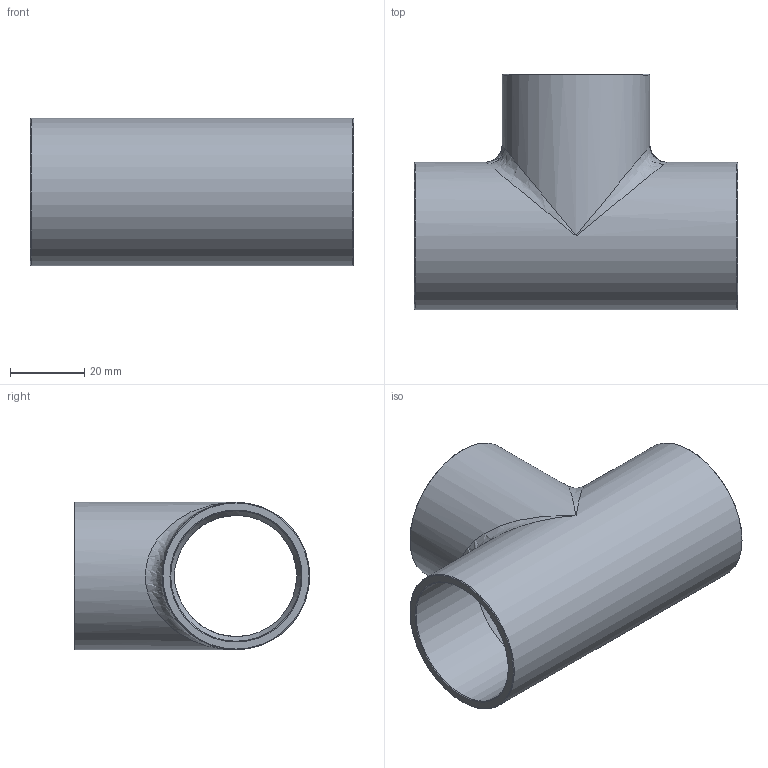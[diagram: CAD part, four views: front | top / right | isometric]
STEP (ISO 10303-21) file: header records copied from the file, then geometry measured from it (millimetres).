
FILE_DESCRIPTION((''),'2;1');
FILE_NAME('G:\SANHA-Ternat\Technik\Management\Bouwmaten + markeringen\z-maattekeningen 3D\29000s\29130138_3d.stp','2017-07-26T15:59:49',('vdvijverd'),(''),'Autodesk Inventor 2009','Autodesk Inventor 2009','');
FILE_SCHEMA(('AUTOMOTIVE_DESIGN { 1 0 10303 214 1 1 1 1 }'));
Length unit declared in the file: millimetre
Products named in the file (1): 29130138_3d
Bounding box: 87 x 63.35 x 39.7 mm (x, y, z)
Volume: 33760.5 mm3; surface area: 25618.1 mm2
Topology: 1 solids, 1 shells, 24 faces, 66 edges, 35 vertices
Faces by surface type: cone 8, cylinder 7, bspline 6, plane 3
Full cylindrical faces by diameter (mm): 35.105 x2, 39.7 x2
Entity records: 1542 total; most frequent: CARTESIAN_POINT 1049, DIRECTION 104, ORIENTED_EDGE 74, AXIS2_PLACEMENT_3D 52, EDGE_LOOP 42, EDGE_CURVE 37, VERTEX_POINT 29, FACE_OUTER_BOUND 24
